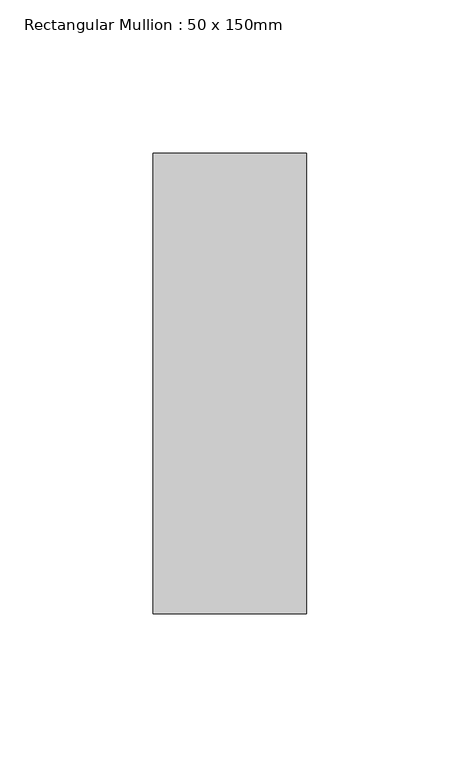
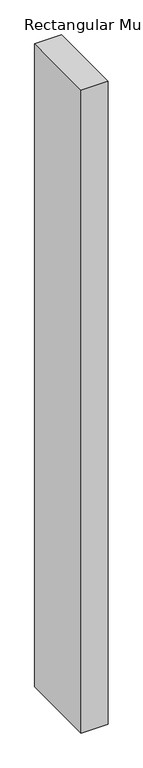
"""IFC4 building model written with IfcOpenShell, lengths in millimetres: member geometry, Rectangular Mullion : 50 x 150mm."""

from ifc_helpers import new_model, si_unit, frame, origin, place, context, project, spatial, polyline, outline, extrude, source, transform, mapped, element, save


def rectangular_mullion_50_x_150mm_e1512880(model_context):
    return source(origin(), model_context, "Body", "SweptSolid", [
        extrude(outline(polyline([(0.0, 75.0), (0.0, -75.0), (-50.0, -75.0), (-50.0, 75.0), (0.0, 75.0)])), frame((0.0, 0.0, -1265.1365015), z_axis=(0.0, 0.0, 1.0), x_axis=(1.0, 0.0, 0.0)), (0.0, 0.0, 1.0), 1265.1365015),
    ])


if __name__ == "__main__":
    model = new_model("IFC4")
    model_context = context("Model", 3, world=origin())
    ifc_project = project(units=[si_unit("LENGTHUNIT", "METRE", prefix="MILLI")], contexts=[model_context])
    site = spatial("IfcSite", under=ifc_project)
    building = spatial("IfcBuilding", under=site)
    placement = place(None, origin())
    rectangular_mullion_50_x_150mm_shape = rectangular_mullion_50_x_150mm_e1512880(model_context)
    element("IfcMember", 1, ObjectType="Rectangular Mullion : 50 x 150mm", at=placement, inside=building, context=model_context, shape_type="MappedRepresentation", body=[
        mapped(rectangular_mullion_50_x_150mm_shape, transform((0.0, 0.0, 0.0), x_axis=(1.0, 0.0, 0.0), y_axis=(0.0, 1.0, 0.0), z_axis=(0.0, 0.0, 1.0))),
    ])
    save(model, "model.ifc")
